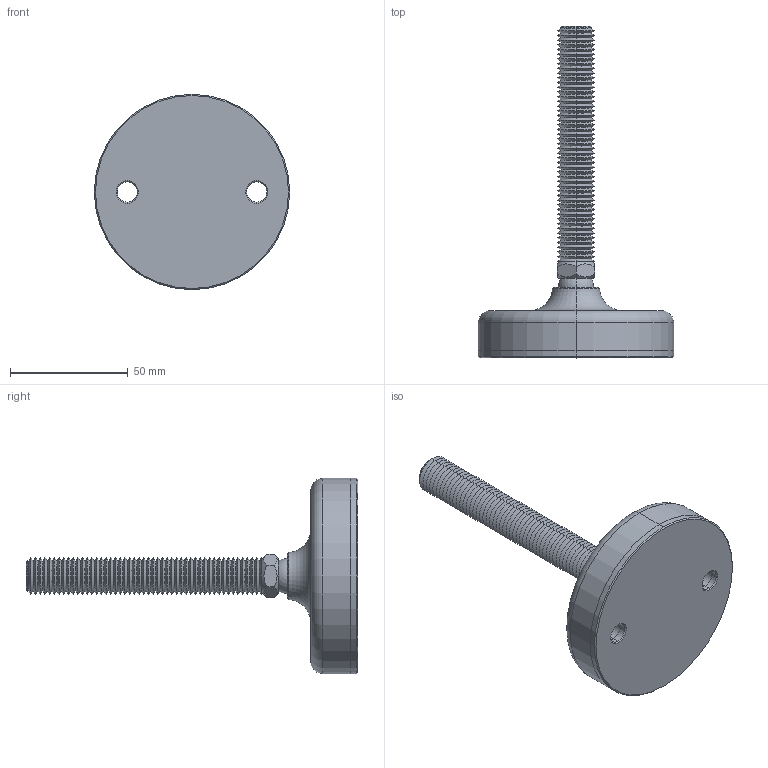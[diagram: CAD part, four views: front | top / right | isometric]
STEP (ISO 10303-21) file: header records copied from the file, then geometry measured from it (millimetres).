
FILE_DESCRIPTION (( 'STEP AP203' ), '1' );
FILE_NAME ('34724.W1602.step', '2019-11-28T22:11:40', ( '' ), ( '' ), 'SwSTEP 2.0', 'SolidWorks 2017', '' );
FILE_SCHEMA (( 'CONFIG_CONTROL_DESIGN' ));
Length unit declared in the file: millimetre
Products named in the file (4): 34724.W1602; Part3_34724.W1602; Part1_34724.W1602; Part2_34724.W1602
Assembly tree (3 placements, depth 2):
  34724.W1602
    Part1_34724.W1602
    Part2_34724.W1602
    Part3_34724.W1602
Bounding box: 83 x 141 x 83 mm (x, y, z)
Volume: 127482.9 mm3; surface area: 37460.5 mm2
Topology: 3 solids, 3 shells, 252 faces, 519 edges, 273 vertices
Faces by surface type: cone 218, plane 14, cylinder 12, sphere 4, torus 4
Entity records: 6962 total; most frequent: DIRECTION 1276, CARTESIAN_POINT 1184, ORIENTED_EDGE 1020, AXIS2_PLACEMENT_3D 520, EDGE_CURVE 510, VERTEX_POINT 268, EDGE_LOOP 264, CIRCLE 262
